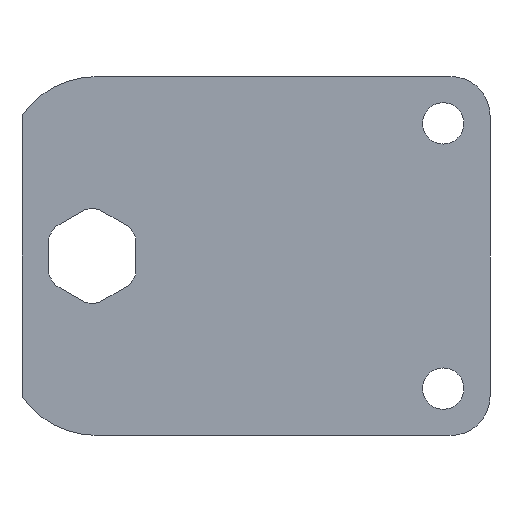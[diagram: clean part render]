
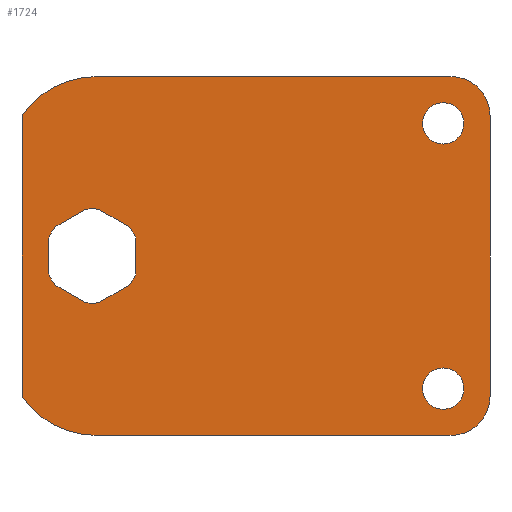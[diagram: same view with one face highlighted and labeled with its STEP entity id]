
A CAD part, left-side view. The second image highlights one B-rep face of the part: STEP entity #1724.
In plain terms, the highlighted planar face has unit normal (-1, 0, 0).
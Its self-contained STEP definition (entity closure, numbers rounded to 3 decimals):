
#23=FACE_BOUND('',#231,.T.);
#24=FACE_BOUND('',#232,.T.);
#25=FACE_BOUND('',#233,.T.);
#63=PLANE('',#1864);
#131=FACE_OUTER_BOUND('',#230,.T.);
#230=EDGE_LOOP('',(#1226,#1227,#1228,#1229,#1230,#1231,#1232,#1233));
#231=EDGE_LOOP('',(#1234,#1235,#1236,#1237,#1238,#1239,#1240,#1241,#1242,
#1243,#1244,#1245));
#232=EDGE_LOOP('',(#1246));
#233=EDGE_LOOP('',(#1247));
#318=LINE('',#2505,#472);
#323=LINE('',#2519,#477);
#327=LINE('',#2531,#481);
#331=LINE('',#2543,#485);
#335=LINE('',#2555,#489);
#339=LINE('',#2567,#493);
#346=LINE('',#2597,#500);
#350=LINE('',#2609,#504);
#354=LINE('',#2621,#508);
#358=LINE('',#2632,#512);
#472=VECTOR('',#2013,4.579);
#477=VECTOR('',#2026,4.579);
#481=VECTOR('',#2038,4.579);
#485=VECTOR('',#2050,4.579);
#489=VECTOR('',#2062,4.579);
#493=VECTOR('',#2074,4.579);
#500=VECTOR('',#2107,45.5);
#504=VECTOR('',#2119,36.);
#508=VECTOR('',#2131,45.5);
#512=VECTOR('',#2143,35.961);
#630=CIRCLE('',#1819,6.05);
#632=CIRCLE('',#1823,6.05);
#634=CIRCLE('',#1827,6.05);
#636=CIRCLE('',#1831,6.05);
#638=CIRCLE('',#1835,6.05);
#640=CIRCLE('',#1839,6.05);
#642=CIRCLE('',#1842,2.65);
#644=CIRCLE('',#1845,2.65);
#646=CIRCLE('',#1848,11.5);
#648=CIRCLE('',#1852,5.);
#650=CIRCLE('',#1856,5.);
#652=CIRCLE('',#1860,11.5);
#710=VERTEX_POINT('',#2503);
#711=VERTEX_POINT('',#2504);
#714=VERTEX_POINT('',#2512);
#716=VERTEX_POINT('',#2518);
#718=VERTEX_POINT('',#2524);
#720=VERTEX_POINT('',#2530);
#722=VERTEX_POINT('',#2536);
#724=VERTEX_POINT('',#2542);
#726=VERTEX_POINT('',#2548);
#728=VERTEX_POINT('',#2554);
#730=VERTEX_POINT('',#2560);
#732=VERTEX_POINT('',#2566);
#734=VERTEX_POINT('',#2575);
#736=VERTEX_POINT('',#2581);
#738=VERTEX_POINT('',#2587);
#739=VERTEX_POINT('',#2588);
#742=VERTEX_POINT('',#2596);
#744=VERTEX_POINT('',#2602);
#746=VERTEX_POINT('',#2608);
#748=VERTEX_POINT('',#2614);
#750=VERTEX_POINT('',#2620);
#752=VERTEX_POINT('',#2626);
#870=EDGE_CURVE('',#710,#711,#318,.T.);
#874=EDGE_CURVE('',#714,#710,#630,.T.);
#877=EDGE_CURVE('',#716,#714,#323,.T.);
#880=EDGE_CURVE('',#718,#716,#632,.T.);
#883=EDGE_CURVE('',#720,#718,#327,.T.);
#886=EDGE_CURVE('',#722,#720,#634,.T.);
#889=EDGE_CURVE('',#724,#722,#331,.T.);
#892=EDGE_CURVE('',#726,#724,#636,.T.);
#895=EDGE_CURVE('',#728,#726,#335,.T.);
#898=EDGE_CURVE('',#730,#728,#638,.T.);
#901=EDGE_CURVE('',#732,#730,#339,.T.);
#904=EDGE_CURVE('',#711,#732,#640,.T.);
#906=EDGE_CURVE('',#734,#734,#642,.T.);
#909=EDGE_CURVE('',#736,#736,#644,.T.);
#912=EDGE_CURVE('',#738,#739,#646,.T.);
#916=EDGE_CURVE('',#742,#738,#346,.T.);
#919=EDGE_CURVE('',#744,#742,#648,.T.);
#922=EDGE_CURVE('',#746,#744,#350,.T.);
#925=EDGE_CURVE('',#748,#746,#650,.T.);
#928=EDGE_CURVE('',#750,#748,#354,.T.);
#931=EDGE_CURVE('',#752,#750,#652,.T.);
#934=EDGE_CURVE('',#739,#752,#358,.T.);
#1226=ORIENTED_EDGE('',*,*,#934,.F.);
#1227=ORIENTED_EDGE('',*,*,#912,.F.);
#1228=ORIENTED_EDGE('',*,*,#916,.F.);
#1229=ORIENTED_EDGE('',*,*,#919,.F.);
#1230=ORIENTED_EDGE('',*,*,#922,.F.);
#1231=ORIENTED_EDGE('',*,*,#925,.F.);
#1232=ORIENTED_EDGE('',*,*,#928,.F.);
#1233=ORIENTED_EDGE('',*,*,#931,.F.);
#1234=ORIENTED_EDGE('',*,*,#870,.T.);
#1235=ORIENTED_EDGE('',*,*,#904,.T.);
#1236=ORIENTED_EDGE('',*,*,#901,.T.);
#1237=ORIENTED_EDGE('',*,*,#898,.T.);
#1238=ORIENTED_EDGE('',*,*,#895,.T.);
#1239=ORIENTED_EDGE('',*,*,#892,.T.);
#1240=ORIENTED_EDGE('',*,*,#889,.T.);
#1241=ORIENTED_EDGE('',*,*,#886,.T.);
#1242=ORIENTED_EDGE('',*,*,#883,.T.);
#1243=ORIENTED_EDGE('',*,*,#880,.T.);
#1244=ORIENTED_EDGE('',*,*,#877,.T.);
#1245=ORIENTED_EDGE('',*,*,#874,.T.);
#1246=ORIENTED_EDGE('',*,*,#906,.T.);
#1247=ORIENTED_EDGE('',*,*,#909,.T.);
#1724=ADVANCED_FACE('',(#131,#23,#24,#25),#63,.F.);
#1819=AXIS2_PLACEMENT_3D('',#2513,#2019,#2020);
#1823=AXIS2_PLACEMENT_3D('',#2525,#2031,#2032);
#1827=AXIS2_PLACEMENT_3D('',#2537,#2043,#2044);
#1831=AXIS2_PLACEMENT_3D('',#2549,#2055,#2056);
#1835=AXIS2_PLACEMENT_3D('',#2561,#2067,#2068);
#1839=AXIS2_PLACEMENT_3D('',#2572,#2079,#2080);
#1842=AXIS2_PLACEMENT_3D('',#2576,#2085,#2086);
#1845=AXIS2_PLACEMENT_3D('',#2582,#2092,#2093);
#1848=AXIS2_PLACEMENT_3D('',#2589,#2099,#2100);
#1852=AXIS2_PLACEMENT_3D('',#2603,#2112,#2113);
#1856=AXIS2_PLACEMENT_3D('',#2615,#2124,#2125);
#1860=AXIS2_PLACEMENT_3D('',#2627,#2136,#2137);
#1864=AXIS2_PLACEMENT_3D('',#2635,#2147,#2148);
#2013=DIRECTION('',(0.,-0.866,-0.5));
#2019=DIRECTION('center_axis',(1.,0.,0.));
#2020=DIRECTION('ref_axis',(0.,0.135,0.991));
#2026=DIRECTION('',(0.,-0.866,0.5));
#2031=DIRECTION('center_axis',(1.,0.,0.));
#2032=DIRECTION('ref_axis',(0.,0.926,0.378));
#2038=DIRECTION('',(0.,0.,1.));
#2043=DIRECTION('center_axis',(1.,0.,0.));
#2044=DIRECTION('ref_axis',(0.,0.791,-0.612));
#2050=DIRECTION('',(0.,0.866,0.5));
#2055=DIRECTION('center_axis',(1.,0.,0.));
#2056=DIRECTION('ref_axis',(0.,-0.135,-0.991));
#2062=DIRECTION('',(0.,0.866,-0.5));
#2067=DIRECTION('center_axis',(1.,0.,0.));
#2068=DIRECTION('ref_axis',(0.,-0.926,-0.378));
#2074=DIRECTION('',(0.,0.,-1.));
#2079=DIRECTION('center_axis',(1.,0.,0.));
#2080=DIRECTION('ref_axis',(0.,-0.791,0.612));
#2085=DIRECTION('center_axis',(1.,0.,0.));
#2086=DIRECTION('ref_axis',(0.,-1.,0.));
#2092=DIRECTION('center_axis',(1.,0.,0.));
#2093=DIRECTION('ref_axis',(0.,-1.,0.));
#2099=DIRECTION('center_axis',(1.,0.,0.));
#2100=DIRECTION('ref_axis',(0.,0.,-1.));
#2107=DIRECTION('',(0.,1.,0.));
#2112=DIRECTION('center_axis',(1.,0.,0.));
#2113=DIRECTION('ref_axis',(0.,-1.,0.));
#2119=DIRECTION('',(0.,0.,-1.));
#2124=DIRECTION('center_axis',(1.,0.,0.));
#2125=DIRECTION('ref_axis',(0.,0.,1.));
#2131=DIRECTION('',(0.,-1.,0.));
#2136=DIRECTION('center_axis',(1.,0.,0.));
#2137=DIRECTION('ref_axis',(0.,0.826,0.564));
#2143=DIRECTION('',(0.,0.,1.));
#2147=DIRECTION('center_axis',(1.,0.,0.));
#2148=DIRECTION('ref_axis',(0.,0.,-1.));
#2503=CARTESIAN_POINT('',(0.,-0.817,5.995));
#2504=CARTESIAN_POINT('',(0.,-4.783,3.705));
#2505=CARTESIAN_POINT('',(0.,-0.817,5.995));
#2512=CARTESIAN_POINT('',(0.,0.817,5.995));
#2513=CARTESIAN_POINT('Origin',(0.,0.,0.));
#2518=CARTESIAN_POINT('',(0.,4.783,3.705));
#2519=CARTESIAN_POINT('',(0.,4.783,3.705));
#2524=CARTESIAN_POINT('',(0.,5.6,2.29));
#2525=CARTESIAN_POINT('Origin',(0.,0.,0.));
#2530=CARTESIAN_POINT('',(0.,5.6,-2.29));
#2531=CARTESIAN_POINT('',(0.,5.6,-2.29));
#2536=CARTESIAN_POINT('',(0.,4.783,-3.705));
#2537=CARTESIAN_POINT('Origin',(0.,0.,0.));
#2542=CARTESIAN_POINT('',(0.,0.817,-5.995));
#2543=CARTESIAN_POINT('',(0.,0.817,-5.995));
#2548=CARTESIAN_POINT('',(0.,-0.817,-5.995));
#2549=CARTESIAN_POINT('Origin',(0.,0.,0.));
#2554=CARTESIAN_POINT('',(0.,-4.783,-3.705));
#2555=CARTESIAN_POINT('',(0.,-4.783,-3.705));
#2560=CARTESIAN_POINT('',(0.,-5.6,-2.29));
#2561=CARTESIAN_POINT('Origin',(0.,0.,0.));
#2566=CARTESIAN_POINT('',(0.,-5.6,2.29));
#2567=CARTESIAN_POINT('',(0.,-5.6,2.29));
#2572=CARTESIAN_POINT('Origin',(0.,0.,0.));
#2575=CARTESIAN_POINT('',(0.,-42.35,-17.));
#2576=CARTESIAN_POINT('Origin',(0.,-45.,-17.));
#2581=CARTESIAN_POINT('',(0.,-42.35,17.));
#2582=CARTESIAN_POINT('Origin',(0.,-45.,17.));
#2587=CARTESIAN_POINT('',(0.,-0.5,-23.));
#2588=CARTESIAN_POINT('',(0.,9.,-17.981));
#2589=CARTESIAN_POINT('Origin',(0.,-0.5,-11.5));
#2596=CARTESIAN_POINT('',(0.,-46.,-23.));
#2597=CARTESIAN_POINT('',(0.,-46.,-23.));
#2602=CARTESIAN_POINT('',(0.,-51.,-18.));
#2603=CARTESIAN_POINT('Origin',(0.,-46.,-18.));
#2608=CARTESIAN_POINT('',(0.,-51.,18.));
#2609=CARTESIAN_POINT('',(0.,-51.,18.));
#2614=CARTESIAN_POINT('',(0.,-46.,23.));
#2615=CARTESIAN_POINT('Origin',(0.,-46.,18.));
#2620=CARTESIAN_POINT('',(0.,-0.5,23.));
#2621=CARTESIAN_POINT('',(0.,-0.5,23.));
#2626=CARTESIAN_POINT('',(0.,9.,17.981));
#2627=CARTESIAN_POINT('Origin',(0.,-0.5,11.5));
#2632=CARTESIAN_POINT('',(0.,9.,-17.981));
#2635=CARTESIAN_POINT('Origin',(0.,-21.562,0.));
